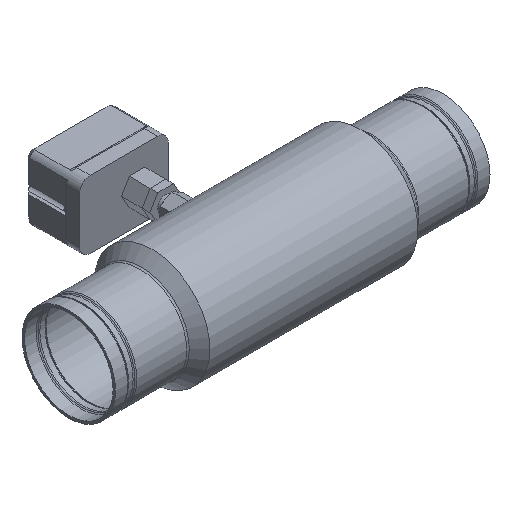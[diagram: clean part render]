
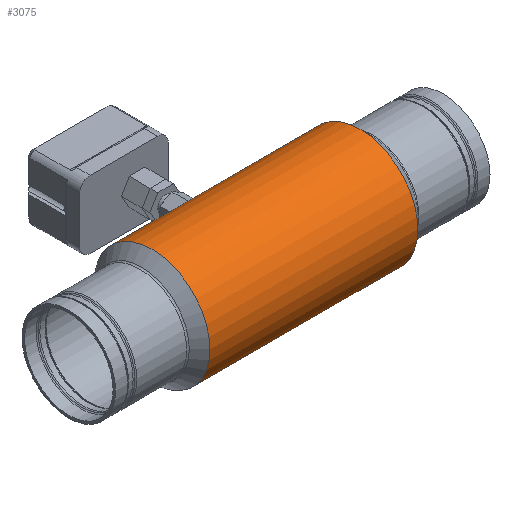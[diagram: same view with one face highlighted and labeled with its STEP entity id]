
A CAD part, isometric view. The second image highlights one B-rep face of the part: STEP entity #3075.
In plain terms, the highlighted cylindrical face has radius 70.65 mm (diameter 141.3 mm), a full revolution.
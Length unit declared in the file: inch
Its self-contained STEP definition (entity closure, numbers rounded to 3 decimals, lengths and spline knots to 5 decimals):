
#93=FACE_BOUND('',#462,.T.);
#178=CYLINDRICAL_SURFACE('',#3382,2.7815);
#286=FACE_OUTER_BOUND('',#461,.T.);
#461=EDGE_LOOP('',(#2368,#2369,#2370,#2371,#2372,#2373));
#462=EDGE_LOOP('',(#2374,#2375));
#663=CIRCLE('',#3377,2.7815);
#664=CIRCLE('',#3378,2.7815);
#665=CIRCLE('',#3380,2.7815);
#666=CIRCLE('',#3381,2.7815);
#776=B_SPLINE_CURVE_WITH_KNOTS('',3,(#14952,#14953,#14954,#14955,#14956,
#14957,#14958,#14959,#14960,#14961,#14962,#14963,#14964,#14965,#14966,#14967,
#14968,#14969,#14970,#14971,#14972,#14973,#14974,#14975,#14976,#14977),
 .UNSPECIFIED.,.F.,.F.,(4,2,2,2,2,2,2,2,2,2,2,2,4),(0.,0.20908,
0.41816,0.6273,0.83644,1.04558,1.25472,
1.4638,1.67288,1.88196,2.09105,2.30018,
2.50932),.UNSPECIFIED.);
#777=B_SPLINE_CURVE_WITH_KNOTS('',3,(#14978,#14979,#14980,#14981,#14982,
#14983,#14984,#14985,#14986,#14987),.UNSPECIFIED.,.F.,.F.,(4,2,2,2,4),(2.50932,
2.71846,2.9276,3.13668,3.34577),
 .UNSPECIFIED.);
#842=LINE('',#15191,#1009);
#1009=VECTOR('',#3980,2.7815);
#1224=VERTEX_POINT('',#14950);
#1225=VERTEX_POINT('',#14951);
#1290=VERTEX_POINT('',#15181);
#1291=VERTEX_POINT('',#15182);
#1292=VERTEX_POINT('',#15186);
#1293=VERTEX_POINT('',#15187);
#1575=EDGE_CURVE('',#1224,#1225,#776,.T.);
#1576=EDGE_CURVE('',#1225,#1224,#777,.T.);
#1673=EDGE_CURVE('',#1290,#1291,#663,.T.);
#1674=EDGE_CURVE('',#1291,#1290,#664,.T.);
#1675=EDGE_CURVE('',#1292,#1293,#665,.T.);
#1676=EDGE_CURVE('',#1293,#1292,#666,.T.);
#1677=EDGE_CURVE('',#1293,#1291,#842,.T.);
#2368=ORIENTED_EDGE('',*,*,#1675,.F.);
#2369=ORIENTED_EDGE('',*,*,#1676,.F.);
#2370=ORIENTED_EDGE('',*,*,#1677,.T.);
#2371=ORIENTED_EDGE('',*,*,#1673,.F.);
#2372=ORIENTED_EDGE('',*,*,#1674,.F.);
#2373=ORIENTED_EDGE('',*,*,#1677,.F.);
#2374=ORIENTED_EDGE('',*,*,#1575,.T.);
#2375=ORIENTED_EDGE('',*,*,#1576,.T.);
#3075=ADVANCED_FACE('',(#286,#93),#178,.T.);
#3377=AXIS2_PLACEMENT_3D('',#15183,#3968,#3969);
#3378=AXIS2_PLACEMENT_3D('',#15184,#3970,#3971);
#3380=AXIS2_PLACEMENT_3D('',#15188,#3974,#3975);
#3381=AXIS2_PLACEMENT_3D('',#15189,#3976,#3977);
#3382=AXIS2_PLACEMENT_3D('',#15190,#3978,#3979);
#3968=DIRECTION('center_axis',(-1.,0.,0.));
#3969=DIRECTION('ref_axis',(0.,1.,0.));
#3970=DIRECTION('center_axis',(-1.,0.,0.));
#3971=DIRECTION('ref_axis',(0.,1.,0.));
#3974=DIRECTION('center_axis',(1.,0.,0.));
#3975=DIRECTION('ref_axis',(0.,1.,0.));
#3976=DIRECTION('center_axis',(1.,0.,0.));
#3977=DIRECTION('ref_axis',(0.,1.,0.));
#3978=DIRECTION('center_axis',(1.,0.,0.));
#3979=DIRECTION('ref_axis',(0.,1.,0.));
#3980=DIRECTION('',(-1.,0.,0.));
#14950=CARTESIAN_POINT('',(9.76081,6.12307,3.56232));
#14951=CARTESIAN_POINT('',(9.9794,6.13165,3.344));
#14952=CARTESIAN_POINT('Ctrl Pts',(9.76081,6.12307,3.56232));
#14953=CARTESIAN_POINT('Ctrl Pts',(9.73337,6.12307,3.56232));
#14954=CARTESIAN_POINT('Ctrl Pts',(9.7041,6.12352,3.55685));
#14955=CARTESIAN_POINT('Ctrl Pts',(9.65027,6.12514,3.53459));
#14956=CARTESIAN_POINT('Ctrl Pts',(9.6257,6.12629,3.5178));
#14957=CARTESIAN_POINT('Ctrl Pts',(9.58688,6.12844,3.47906));
#14958=CARTESIAN_POINT('Ctrl Pts',(9.57005,6.12959,3.45452));
#14959=CARTESIAN_POINT('Ctrl Pts',(9.54771,6.13121,3.40071));
#14960=CARTESIAN_POINT('Ctrl Pts',(9.54221,6.13165,3.37145));
#14961=CARTESIAN_POINT('Ctrl Pts',(9.54221,6.13165,3.31655));
#14962=CARTESIAN_POINT('Ctrl Pts',(9.54771,6.13121,3.28729));
#14963=CARTESIAN_POINT('Ctrl Pts',(9.57005,6.12959,3.23348));
#14964=CARTESIAN_POINT('Ctrl Pts',(9.58688,6.12844,3.20894));
#14965=CARTESIAN_POINT('Ctrl Pts',(9.6257,6.12629,3.1702));
#14966=CARTESIAN_POINT('Ctrl Pts',(9.65027,6.12514,3.15341));
#14967=CARTESIAN_POINT('Ctrl Pts',(9.7041,6.12352,3.13115));
#14968=CARTESIAN_POINT('Ctrl Pts',(9.73337,6.12307,3.12568));
#14969=CARTESIAN_POINT('Ctrl Pts',(9.78824,6.12307,3.12568));
#14970=CARTESIAN_POINT('Ctrl Pts',(9.81751,6.12352,3.13115));
#14971=CARTESIAN_POINT('Ctrl Pts',(9.87134,6.12514,3.15341));
#14972=CARTESIAN_POINT('Ctrl Pts',(9.89591,6.12629,3.1702));
#14973=CARTESIAN_POINT('Ctrl Pts',(9.93473,6.12844,3.20894));
#14974=CARTESIAN_POINT('Ctrl Pts',(9.95157,6.12959,3.23348));
#14975=CARTESIAN_POINT('Ctrl Pts',(9.9739,6.13121,3.28729));
#14976=CARTESIAN_POINT('Ctrl Pts',(9.9794,6.13165,3.31655));
#14977=CARTESIAN_POINT('Ctrl Pts',(9.9794,6.13165,3.344));
#14978=CARTESIAN_POINT('Ctrl Pts',(9.9794,6.13165,3.344));
#14979=CARTESIAN_POINT('Ctrl Pts',(9.9794,6.13165,3.37145));
#14980=CARTESIAN_POINT('Ctrl Pts',(9.9739,6.13121,3.40071));
#14981=CARTESIAN_POINT('Ctrl Pts',(9.95157,6.12959,3.45452));
#14982=CARTESIAN_POINT('Ctrl Pts',(9.93473,6.12844,3.47906));
#14983=CARTESIAN_POINT('Ctrl Pts',(9.89591,6.12629,3.5178));
#14984=CARTESIAN_POINT('Ctrl Pts',(9.87134,6.12514,3.53459));
#14985=CARTESIAN_POINT('Ctrl Pts',(9.81751,6.12352,3.55685));
#14986=CARTESIAN_POINT('Ctrl Pts',(9.78824,6.12307,3.56232));
#14987=CARTESIAN_POINT('Ctrl Pts',(9.76081,6.12307,3.56232));
#15181=CARTESIAN_POINT('',(4.76081,6.13165,3.344));
#15182=CARTESIAN_POINT('',(4.76081,0.56865,3.344));
#15183=CARTESIAN_POINT('Origin',(4.76081,3.35015,3.344));
#15184=CARTESIAN_POINT('Origin',(4.76081,3.35015,3.344));
#15186=CARTESIAN_POINT('',(14.76081,6.13165,3.344));
#15187=CARTESIAN_POINT('',(14.76081,0.56865,3.344));
#15188=CARTESIAN_POINT('Origin',(14.76081,3.35015,3.344));
#15189=CARTESIAN_POINT('Origin',(14.76081,3.35015,3.344));
#15190=CARTESIAN_POINT('Origin',(9.76081,3.35015,3.344));
#15191=CARTESIAN_POINT('',(9.76081,0.56865,3.344));
